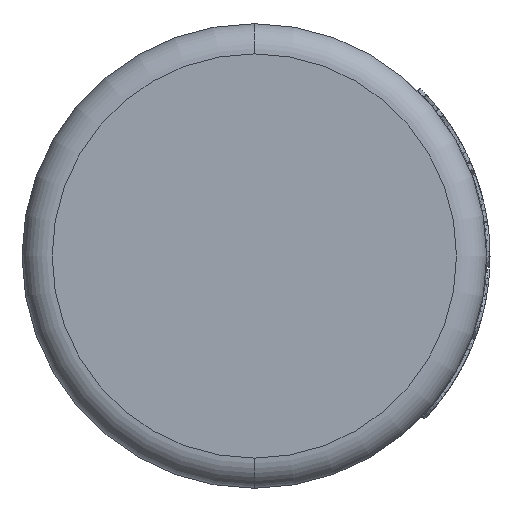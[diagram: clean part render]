
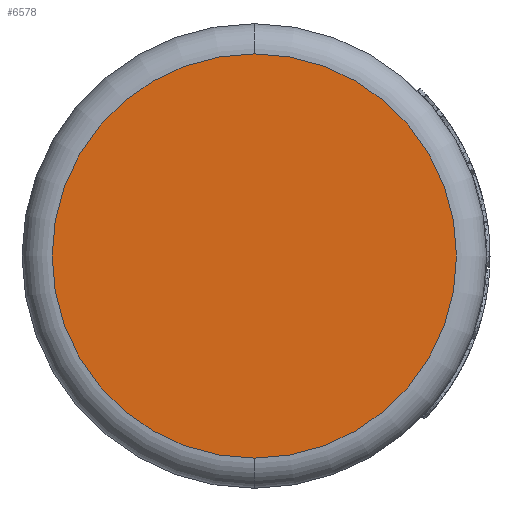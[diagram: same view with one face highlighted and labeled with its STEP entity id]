
A CAD part, front view. The second image highlights one B-rep face of the part: STEP entity #6578.
In plain terms, the highlighted planar face has unit normal (0, -1, 0).
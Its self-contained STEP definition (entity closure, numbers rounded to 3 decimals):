
#1667=CARTESIAN_POINT('',(0.,0.,0.));
#1668=DIRECTION('',(0.,1.,0.));
#1669=DIRECTION('',(0.,0.,1.));
#1670=AXIS2_PLACEMENT_3D('',#1667,#1668,#1669);
#1672=CARTESIAN_POINT('',(0.,0.,0.));
#1673=DIRECTION('',(0.,1.,0.));
#1674=DIRECTION('',(0.,0.,-1.));
#1675=AXIS2_PLACEMENT_3D('',#1672,#1673,#1674);
#4904=CARTESIAN_POINT('',(0.,0.,13.393));
#4905=CARTESIAN_POINT('',(0.,0.,-13.393));
#4906=VERTEX_POINT('',#4904);
#4907=VERTEX_POINT('',#4905);
#6569=CARTESIAN_POINT('',(0.,0.,0.));
#6570=DIRECTION('',(0.,-1.,0.));
#6571=DIRECTION('',(0.,0.,1.));
#6572=AXIS2_PLACEMENT_3D('',#6569,#6570,#6571);
#6573=PLANE('',#6572);
#6574=ORIENTED_EDGE('',*,*,#6497,.T.);
#6575=ORIENTED_EDGE('',*,*,#6512,.T.);
#6576=EDGE_LOOP('',(#6574,#6575));
#6577=FACE_OUTER_BOUND('',#6576,.F.);
#6578=ADVANCED_FACE('',(#6577),#6573,.T.);
#1671=CIRCLE('',#1670,13.393);
#1676=CIRCLE('',#1675,13.393);
#6497=EDGE_CURVE('',#4906,#4907,#1671,.T.);
#6512=EDGE_CURVE('',#4907,#4906,#1676,.T.);
